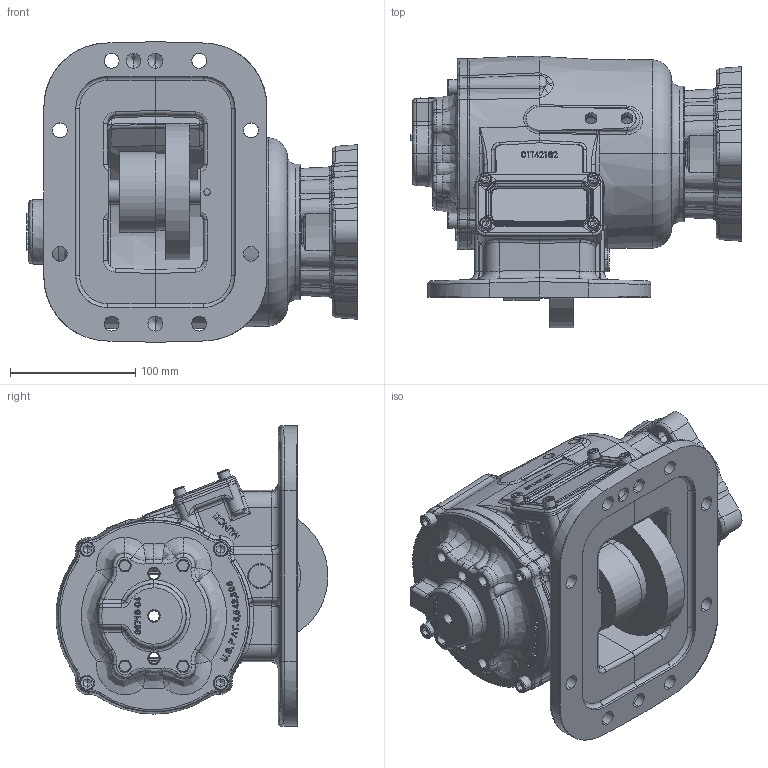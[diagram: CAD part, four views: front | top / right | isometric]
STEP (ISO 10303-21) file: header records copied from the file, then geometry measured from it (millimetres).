
FILE_DESCRIPTION (( 'STEP AP203' ), '1' );
FILE_NAME ('CS8S-XXXXX-X2DX.STEP', '2012-05-31T15:14:50', ( '' ), ( '' ), 'SwSTEP 2.0', 'SolidWorks 2012', '' );
FILE_SCHEMA (( 'CONFIG_CONTROL_DESIGN' ));
Products named in the file (3): CS8S-XXXXX-X2DX; 14T39406-1; CS8S-XXXXX-X2XX
Assembly tree (2 placements, depth 2):
  CS8S-XXXXX-X2DX
    CS8S-XXXXX-X2XX
    14T39406-1
Bounding box: 263.71 x 216.55 x 239.61 mm (x, y, z)
Volume: 1857727 mm3; surface area: 460305.2 mm2
Topology: 5 solids, 5 shells, 2279 faces, 5775 edges, 3545 vertices
Faces by surface type: bspline 801, plane 541, cylinder 466, cone 322, torus 143, sphere 6
Entity records: 129866 total; most frequent: CARTESIAN_POINT 80655, ORIENTED_EDGE 11392, DIRECTION 8356, EDGE_CURVE 5696, VERTEX_POINT 3545, AXIS2_PLACEMENT_3D 3118, EDGE_LOOP 2489, FACE_OUTER_BOUND 2279
